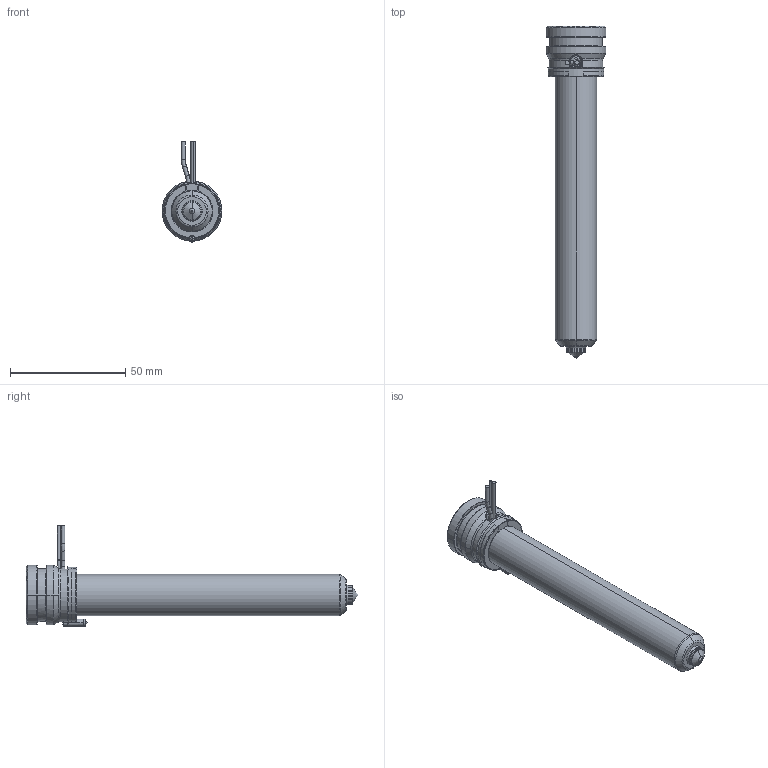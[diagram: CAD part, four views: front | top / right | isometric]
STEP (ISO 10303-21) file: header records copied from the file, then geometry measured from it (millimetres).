
FILE_DESCRIPTION((''),'2;1');
FILE_NAME('MPN-08-24-TS8-126-A','2026-02-05T11:53:07',('UPTIO'),('Thermoplay S.p.A.'),'CREO PARAMETRIC BY PTC INC, 2023494','CREO PARAMETRIC BY PTC INC, 2023494','');
FILE_SCHEMA(('CONFIG_CONTROL_DESIGN','SHAPE_APPEARANCE_LAYERS_GROUPS'));
Length unit declared in the file: millimetre
Products named in the file (1): MPN-08-24-TS8-126-A
Bounding box: 26 x 144 x 43.5 mm (x, y, z)
Volume: 27821.3 mm3; surface area: 35623.4 mm2
Topology: 2 solids, 5 shells, 548 faces, 1437 edges, 892 vertices
Faces by surface type: cylinder 178, plane 146, bspline 82, torus 64, cone 60, sphere 12, extrusion 6
Entity records: 29754 total; most frequent: CARTESIAN_POINT 13581, ORIENTED_EDGE 2854, DIRECTION 2539, EDGE_CURVE 1427, AXIS2_PLACEMENT_3D 992, VERTEX_POINT 892, EDGE_LOOP 575, VECTOR 555
